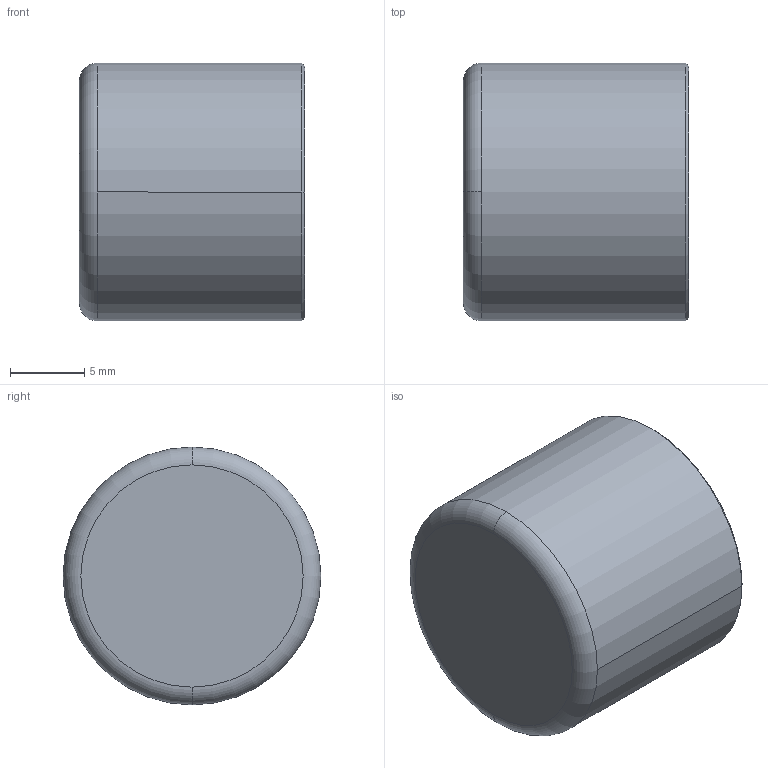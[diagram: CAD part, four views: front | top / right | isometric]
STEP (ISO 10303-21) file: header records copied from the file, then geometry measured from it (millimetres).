
FILE_DESCRIPTION((''),'2;1');
FILE_NAME('C:\sanha_work\5130\f\530116.stp','2005-10-21T18:20:02',('Kris'),(''),'Autodesk Inventor 8','Autodesk Inventor 8','');
FILE_SCHEMA(('AUTOMOTIVE_DESIGN { 1 0 10303 214 1 1 1 1 }'));
Length unit declared in the file: millimetre
Products named in the file (1): 530116
Bounding box: 15.2 x 17.4 x 17.4 mm (x, y, z)
Volume: 683.2 mm3; surface area: 1983.3 mm2
Topology: 1 solids, 1 shells, 15 faces, 34 edges, 22 vertices
Faces by surface type: torus 4, cylinder 4, cone 4, plane 3
Entity records: 461 total; most frequent: DIRECTION 92, CARTESIAN_POINT 72, ORIENTED_EDGE 68, AXIS2_PLACEMENT_3D 42, EDGE_CURVE 34, CIRCLE 26, VERTEX_POINT 22, EDGE_LOOP 16
